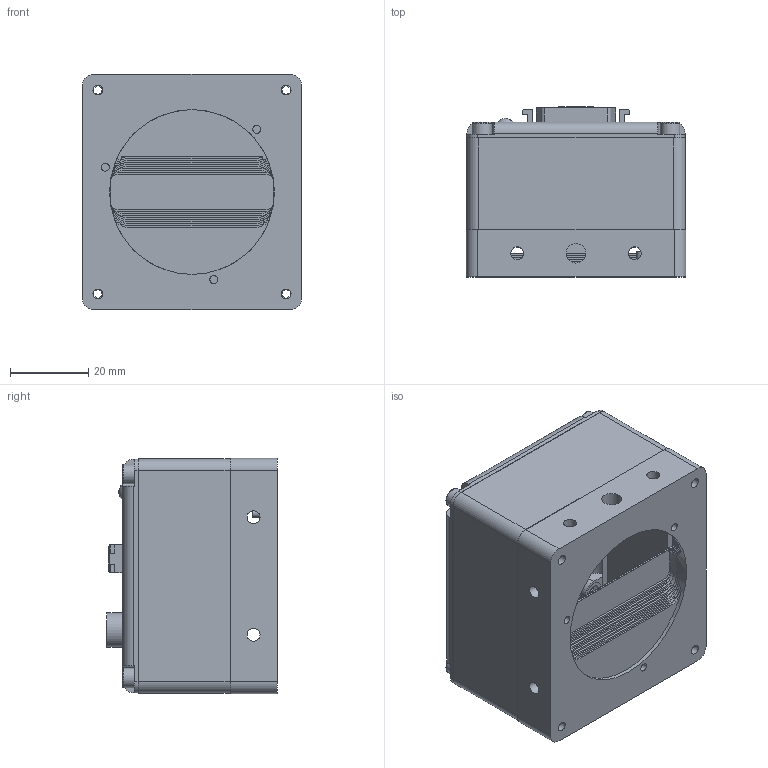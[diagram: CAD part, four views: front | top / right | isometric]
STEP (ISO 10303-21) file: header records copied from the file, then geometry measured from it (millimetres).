
FILE_DESCRIPTION (( 'STEP AP203' ), '1' );
FILE_NAME ('AVIIVA_SM2.STEP', '2012-09-27T11:22:12', ( 'e2v' ), ( 'Microsoft' ), 'SwSTEP 2.0', 'SolidWorks 2012', '' );
FILE_SCHEMA (( 'CONFIG_CONTROL_DESIGN' ));
Length unit declared in the file: millimetre
Products named in the file (1): AVIIVA_SM2
Bounding box: 56 x 43.4 x 60 mm (x, y, z)
Surface area: 19393.7 mm2 (no closed solid volume)
Topology: 0 solids, 10 shells, 246 faces, 725 edges, 491 vertices
Faces by surface type: plane 142, cylinder 99, bspline 4, sphere 1
Full cylindrical faces by diameter (mm): 2.05 x5, 2.5 x4, 3.3 x8, 5 x5, 7.55 x1, 8.85 x1, 42 x1
Entity records: 9673 total; most frequent: CARTESIAN_POINT 3200, DIRECTION 1282, ORIENTED_EDGE 1262, EDGE_CURVE 692, VERTEX_POINT 488, LINE 436, VECTOR 436, AXIS2_PLACEMENT_3D 423
